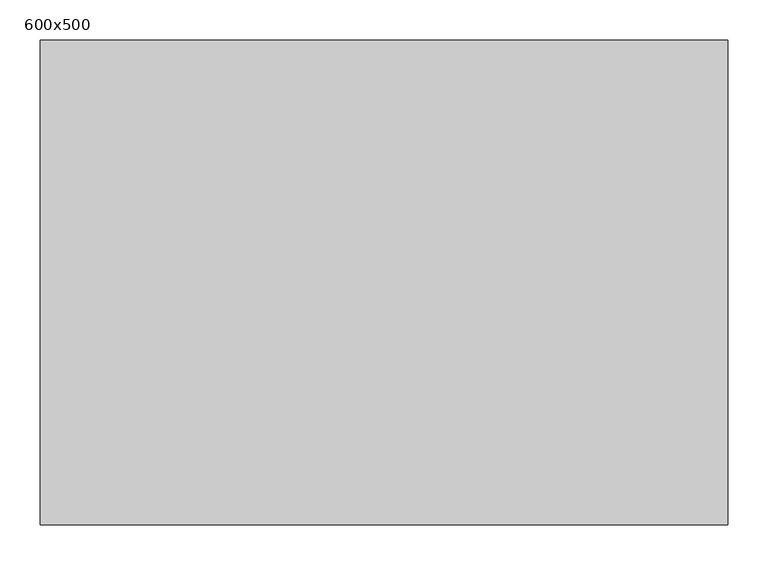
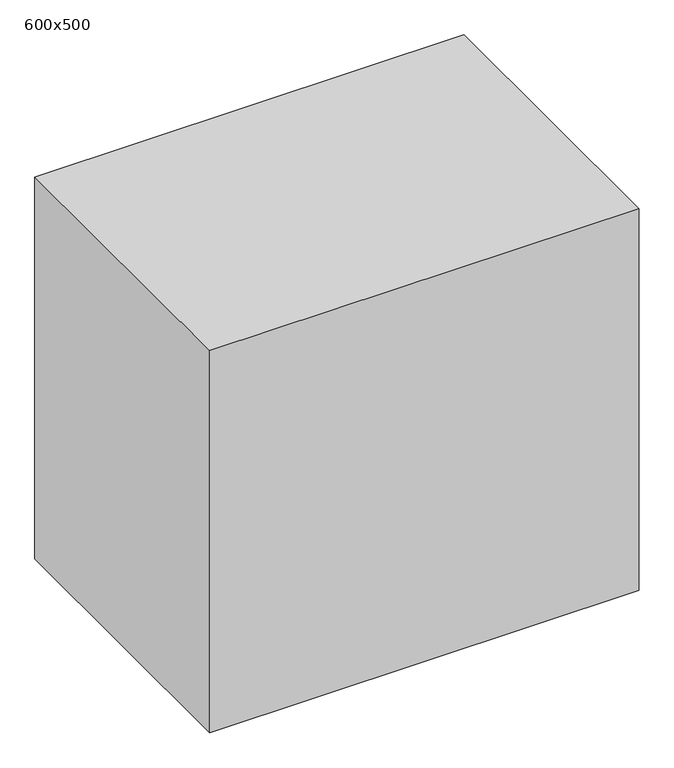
"""IFC4 building model written with IfcOpenShell, lengths in millimetres: flow terminal geometry, SP_раковина_LEG_настраиваемая : 600x500."""

from ifc_helpers import new_model, si_unit, origin, origin_with_axes, place, context, project, spatial, polyline, outline, extrude, source, transform, mapped, element, save


def flow_terminal_600x500_766fcc3c(model_context):
    return source(origin(), model_context, "Body", "SweptSolid", [
        extrude(outline(polyline([(425.0, 0.0), (425.0, -600.0), (-425.0, -600.0), (-425.0, 0.0), (425.0, 0.0)])), origin_with_axes(), (0.0, 0.0, 1.0), 800.0),
    ])


if __name__ == "__main__":
    model = new_model("IFC4")
    model_context = context("Model", 3, world=origin())
    ifc_project = project(units=[si_unit("LENGTHUNIT", "METRE", prefix="MILLI")], contexts=[model_context])
    site = spatial("IfcSite", under=ifc_project)
    building = spatial("IfcBuilding", under=site)
    placement = place(None, origin())
    flow_terminal_600x500_shape = flow_terminal_600x500_766fcc3c(model_context)
    element("IfcFlowTerminal", 1, ObjectType="SP_раковина_LEG_настраиваемая : 600x500", at=placement, inside=building, context=model_context, shape_type="MappedRepresentation", body=[
        mapped(flow_terminal_600x500_shape, transform((0.0, 0.0, 0.0), x_axis=(1.0, 0.0, 0.0), y_axis=(0.0, 1.0, 0.0), z_axis=(0.0, 0.0, 1.0))),
    ])
    save(model, "model.ifc")
